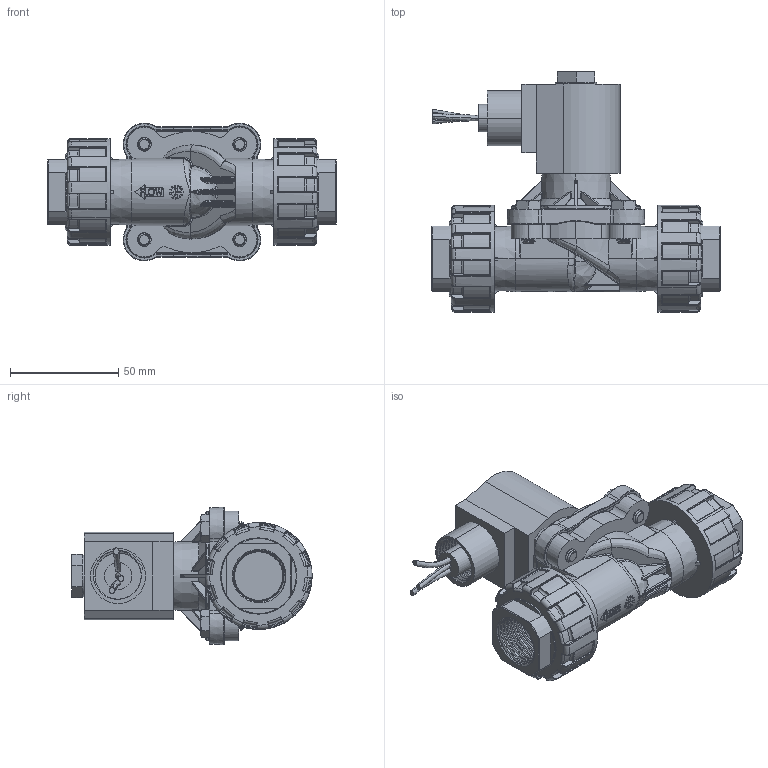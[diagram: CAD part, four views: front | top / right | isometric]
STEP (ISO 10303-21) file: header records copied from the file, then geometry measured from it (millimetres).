
FILE_DESCRIPTION (( 'STEP AP203' ), '1' );
FILE_NAME ('T201GxxxxPE2.STEP', '2024-05-06T15:55:14', ( '' ), ( '' ), 'SwSTEP 2.0', 'SolidWorks 2023', '' );
FILE_SCHEMA (( 'CONFIG_CONTROL_DESIGN' ));
Length unit declared in the file: millimetre
Products named in the file (1): T201GxxxxPE2
Bounding box: 133 x 110.82 x 63.5 mm (x, y, z)
Volume: 251699.4 mm3; surface area: 50880.2 mm2
Topology: 1 solids, 1 shells, 2497 faces, 6483 edges, 3957 vertices
Faces by surface type: bspline 893, plane 659, cylinder 399, torus 273, cone 191, sphere 82
Entity records: 122650 total; most frequent: CARTESIAN_POINT 69796, ORIENTED_EDGE 12738, DIRECTION 8603, EDGE_CURVE 6369, VERTEX_POINT 3953, AXIS2_PLACEMENT_3D 3211, EDGE_LOOP 2576, ADVANCED_FACE 2497
